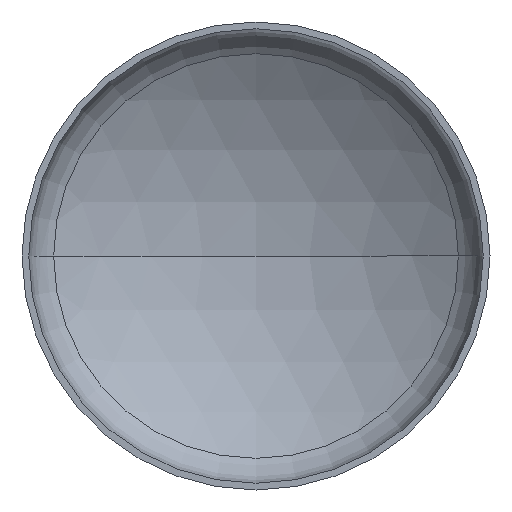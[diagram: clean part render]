
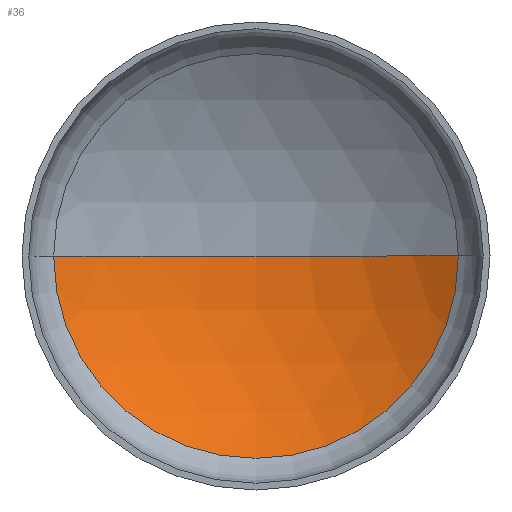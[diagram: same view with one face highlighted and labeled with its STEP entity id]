
A CAD part, front view. The second image highlights one B-rep face of the part: STEP entity #36.
In plain terms, the highlighted spherical face has radius 158.8 mm.
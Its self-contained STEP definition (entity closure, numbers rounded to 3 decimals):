
#18 = CARTESIAN_POINT ( 'NONE',  ( 0., -101.8, 0. ) ) ;
#26 = VERTEX_POINT ( 'NONE', #53 ) ;
#35 = CARTESIAN_POINT ( 'NONE',  ( -89.066, 29.672, 0. ) ) ;
#36 = ADVANCED_FACE ( 'NONE', ( #149 ), #373, .F. ) ;
#43 = CARTESIAN_POINT ( 'NONE',  ( 0., 29.672, 0. ) ) ;
#53 = CARTESIAN_POINT ( 'NONE',  ( 89.066, 29.672, 0. ) ) ;
#58 = DIRECTION ( 'NONE',  ( 0., 0., 1. ) ) ;
#59 = CARTESIAN_POINT ( 'NONE',  ( 0., -101.8, 0. ) ) ;
#60 = EDGE_CURVE ( 'NONE', #203, #176, #165, .T. ) ;
#75 = ORIENTED_EDGE ( 'NONE', *, *, #60, .F. ) ;
#81 = AXIS2_PLACEMENT_3D ( 'NONE', #59, #58, #374 ) ;
#107 = ORIENTED_EDGE ( 'NONE', *, *, #312, .F. ) ;
#108 = EDGE_CURVE ( 'NONE', #26, #176, #152, .T. ) ;
#120 = DIRECTION ( 'NONE',  ( 0., 0., -1. ) ) ;
#148 = DIRECTION ( 'NONE',  ( -1., 0., 0. ) ) ;
#149 = FACE_OUTER_BOUND ( 'NONE', #401, .T. ) ;
#152 = CIRCLE ( 'NONE', #81, 158.8 ) ;
#164 = CARTESIAN_POINT ( 'NONE',  ( 0., 57., 0. ) ) ;
#165 = CIRCLE ( 'NONE', #194, 158.8 ) ;
#176 = VERTEX_POINT ( 'NONE', #164 ) ;
#194 = AXIS2_PLACEMENT_3D ( 'NONE', #403, #120, #371 ) ;
#203 = VERTEX_POINT ( 'NONE', #35 ) ;
#247 = DIRECTION ( 'NONE',  ( 0., 0., 1. ) ) ;
#292 = ORIENTED_EDGE ( 'NONE', *, *, #108, .T. ) ;
#307 = CIRCLE ( 'NONE', #399, 89.066 ) ;
#312 = EDGE_CURVE ( 'NONE', #26, #203, #307, .T. ) ;
#323 = DIRECTION ( 'NONE',  ( -1., 0., 0. ) ) ;
#328 = DIRECTION ( 'NONE',  ( 0., 1., 0. ) ) ;
#350 = AXIS2_PLACEMENT_3D ( 'NONE', #18, #247, #148 ) ;
#371 = DIRECTION ( 'NONE',  ( -1., 0., 0. ) ) ;
#373 = SPHERICAL_SURFACE ( 'NONE', #350, 158.8 ) ;
#374 = DIRECTION ( 'NONE',  ( 1., 0., 0. ) ) ;
#399 = AXIS2_PLACEMENT_3D ( 'NONE', #43, #328, #323 ) ;
#401 = EDGE_LOOP ( 'NONE', ( #107, #292, #75 ) ) ;
#403 = CARTESIAN_POINT ( 'NONE',  ( 0., -101.8, 0. ) ) ;
